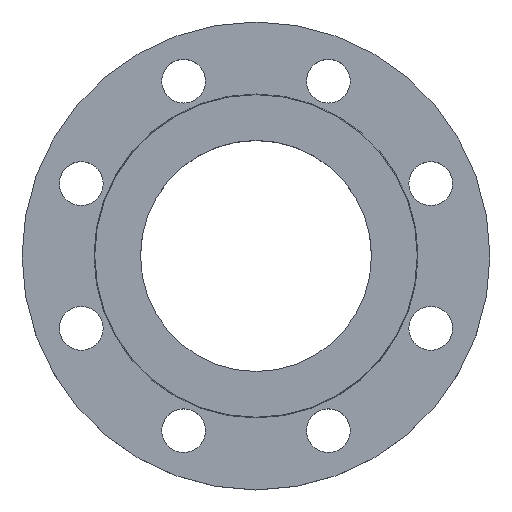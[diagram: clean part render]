
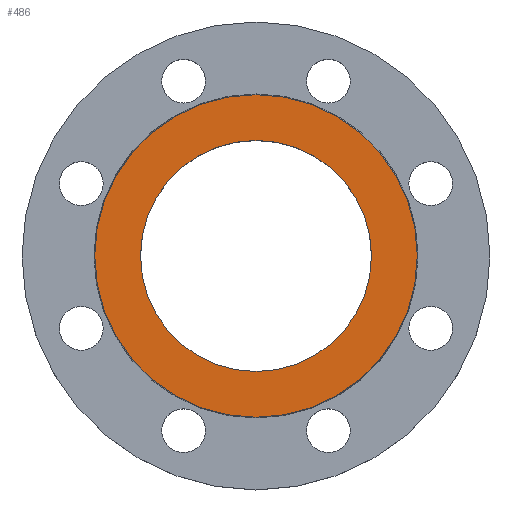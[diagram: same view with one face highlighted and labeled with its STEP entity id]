
A CAD part, top view. The second image highlights one B-rep face of the part: STEP entity #486.
In plain terms, the highlighted planar face has unit normal (0, 0, 1).
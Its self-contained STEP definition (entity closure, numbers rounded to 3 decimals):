
#10 = CIRCLE ( 'NONE', #780, 58. ) ;
#46 = CARTESIAN_POINT ( 'NONE',  ( 0., 0., 0. ) ) ;
#48 = DIRECTION ( 'NONE',  ( 1., 0., 0. ) ) ;
#69 = AXIS2_PLACEMENT_3D ( 'NONE', #46, #446, #48 ) ;
#78 = CIRCLE ( 'NONE', #97, 81. ) ;
#85 = CARTESIAN_POINT ( 'NONE',  ( -81., 0., 0. ) ) ;
#91 = CARTESIAN_POINT ( 'NONE',  ( 81., 0., 0. ) ) ;
#97 = AXIS2_PLACEMENT_3D ( 'NONE', #320, #319, #318 ) ;
#101 = CARTESIAN_POINT ( 'NONE',  ( -58., 0., 0. ) ) ;
#138 = DIRECTION ( 'NONE',  ( -1., 0., 0. ) ) ;
#139 = DIRECTION ( 'NONE',  ( 0., 0., -1. ) ) ;
#140 = CARTESIAN_POINT ( 'NONE',  ( 0., 0., 0. ) ) ;
#210 = CIRCLE ( 'NONE', #69, 58. ) ;
#311 = CIRCLE ( 'NONE', #312, 81. ) ;
#312 = AXIS2_PLACEMENT_3D ( 'NONE', #140, #139, #138 ) ;
#318 = DIRECTION ( 'NONE',  ( -1., 0., 0. ) ) ;
#319 = DIRECTION ( 'NONE',  ( 0., 0., -1. ) ) ;
#320 = CARTESIAN_POINT ( 'NONE',  ( 0., 0., 0. ) ) ;
#376 = DIRECTION ( 'NONE',  ( 1., 0., 0. ) ) ;
#377 = DIRECTION ( 'NONE',  ( 0., 0., 1. ) ) ;
#378 = CARTESIAN_POINT ( 'NONE',  ( 0., 0., 0. ) ) ;
#391 = CARTESIAN_POINT ( 'NONE',  ( 58., 0., 0. ) ) ;
#419 = DIRECTION ( 'NONE',  ( 1., 0., 0. ) ) ;
#425 = FACE_BOUND ( 'NONE', #965, .T. ) ;
#427 = PLANE ( 'NONE',  #895 ) ;
#429 = DIRECTION ( 'NONE',  ( 0., 0., 1. ) ) ;
#444 = FACE_OUTER_BOUND ( 'NONE', #567, .T. ) ;
#446 = DIRECTION ( 'NONE',  ( 0., 0., 1. ) ) ;
#448 = CARTESIAN_POINT ( 'NONE',  ( 0., 0., 0. ) ) ;
#486 = ADVANCED_FACE ( 'NONE', ( #425, #444 ), #427, .T. ) ;
#499 = EDGE_CURVE ( 'NONE', #536, #952, #210, .T. ) ;
#536 = VERTEX_POINT ( 'NONE', #391 ) ;
#567 = EDGE_LOOP ( 'NONE', ( #861, #862 ) ) ;
#626 = EDGE_CURVE ( 'NONE', #952, #536, #10, .T. ) ;
#735 = EDGE_CURVE ( 'NONE', #968, #962, #78, .T. ) ;
#780 = AXIS2_PLACEMENT_3D ( 'NONE', #378, #377, #376 ) ;
#840 = EDGE_CURVE ( 'NONE', #962, #968, #311, .T. ) ;
#859 = ORIENTED_EDGE ( 'NONE', *, *, #499, .F. ) ;
#860 = ORIENTED_EDGE ( 'NONE', *, *, #626, .F. ) ;
#861 = ORIENTED_EDGE ( 'NONE', *, *, #735, .F. ) ;
#862 = ORIENTED_EDGE ( 'NONE', *, *, #840, .F. ) ;
#895 = AXIS2_PLACEMENT_3D ( 'NONE', #448, #429, #419 ) ;
#952 = VERTEX_POINT ( 'NONE', #101 ) ;
#962 = VERTEX_POINT ( 'NONE', #91 ) ;
#965 = EDGE_LOOP ( 'NONE', ( #859, #860 ) ) ;
#968 = VERTEX_POINT ( 'NONE', #85 ) ;
